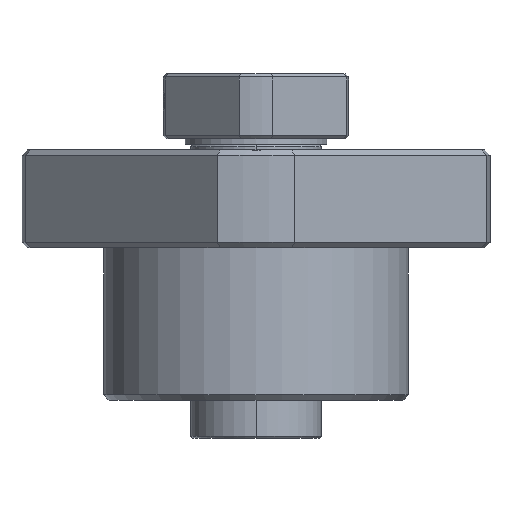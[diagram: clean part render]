
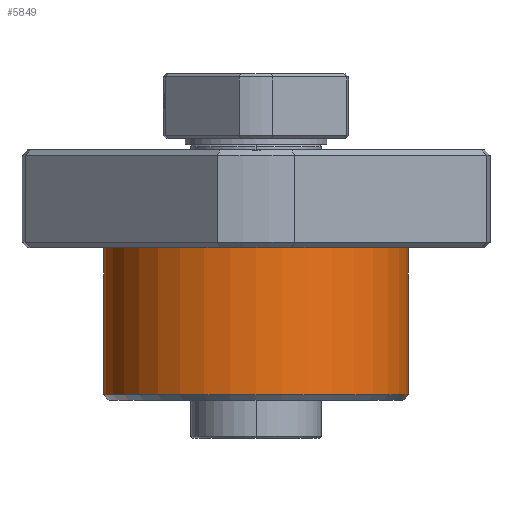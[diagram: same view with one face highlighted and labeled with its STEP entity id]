
A CAD part, left-side view. The second image highlights one B-rep face of the part: STEP entity #5849.
In plain terms, the highlighted cylindrical face has radius 14 mm (diameter 28 mm), a partial arc.
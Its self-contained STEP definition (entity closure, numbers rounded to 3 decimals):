
#1140 = FACE_OUTER_BOUND ( 'NONE', #4709, .T. ) ;
#1141 = AXIS2_PLACEMENT_3D ( 'NONE', #1779, #1780, #1781 ) ;
#1166 = CYLINDRICAL_SURFACE ( 'NONE', #1141, 14. ) ;
#1429 = CARTESIAN_POINT ( 'NONE',  ( 0., 0., -11. ) ) ;
#1430 = DIRECTION ( 'NONE',  ( 0., 0., 1. ) ) ;
#1431 = DIRECTION ( 'NONE',  ( 0., 1., 0. ) ) ;
#1779 = CARTESIAN_POINT ( 'NONE',  ( 0., 0., -11.5 ) ) ;
#1780 = DIRECTION ( 'NONE',  ( 0., 0., -1. ) ) ;
#1781 = DIRECTION ( 'NONE',  ( 0., -1., 0. ) ) ;
#2848 = ORIENTED_EDGE ( 'NONE', *, *, #6526, .F. ) ;
#2849 = ORIENTED_EDGE ( 'NONE', *, *, #6524, .T. ) ;
#2850 = ORIENTED_EDGE ( 'NONE', *, *, #6097, .T. ) ;
#2851 = ORIENTED_EDGE ( 'NONE', *, *, #6525, .T. ) ;
#3089 = CARTESIAN_POINT ( 'NONE',  ( 0., 0., 2.5 ) ) ;
#3093 = LINE ( 'NONE', #3094, #3932 ) ;
#3094 = CARTESIAN_POINT ( 'NONE',  ( 0., 14., -11.5 ) ) ;
#3095 = DIRECTION ( 'NONE',  ( 0., 0., -1. ) ) ;
#3096 = DIRECTION ( 'NONE',  ( 0., 0., -1. ) ) ;
#3097 = DIRECTION ( 'NONE',  ( 0., -1., 0. ) ) ;
#3099 = LINE ( 'NONE', #3100, #3933 ) ;
#3100 = CARTESIAN_POINT ( 'NONE',  ( 0., -14., -11.5 ) ) ;
#3101 = DIRECTION ( 'NONE',  ( 0., 0., -1. ) ) ;
#3357 = AXIS2_PLACEMENT_3D ( 'NONE', #1429, #1430, #1431 ) ;
#3925 = AXIS2_PLACEMENT_3D ( 'NONE', #3089, #3096, #3097 ) ;
#3932 = VECTOR ( 'NONE', #3095, 1000. ) ;
#3933 = VECTOR ( 'NONE', #3101, 1000. ) ;
#4152 = VERTEX_POINT ( 'NONE', #4916 ) ;
#4343 = CIRCLE ( 'NONE', #3357, 14. ) ;
#4554 = CIRCLE ( 'NONE', #3925, 14. ) ;
#4709 = EDGE_LOOP ( 'NONE', ( #2851, #2849, #2850, #2848 ) ) ;
#4916 = CARTESIAN_POINT ( 'NONE',  ( 0., -14., 2.5 ) ) ;
#5065 = CARTESIAN_POINT ( 'NONE',  ( 0., -14., -11. ) ) ;
#5070 = CARTESIAN_POINT ( 'NONE',  ( 0., 14., 2.5 ) ) ;
#5114 = CARTESIAN_POINT ( 'NONE',  ( 0., 14., -11. ) ) ;
#5264 = VERTEX_POINT ( 'NONE', #5065 ) ;
#5269 = VERTEX_POINT ( 'NONE', #5070 ) ;
#5313 = VERTEX_POINT ( 'NONE', #5114 ) ;
#5849 = ADVANCED_FACE ( 'NONE', ( #1140 ), #1166, .T. ) ;
#6097 = EDGE_CURVE ( 'NONE', #5313, #5264, #4343, .T. ) ;
#6524 = EDGE_CURVE ( 'NONE', #5269, #5313, #3093, .T. ) ;
#6525 = EDGE_CURVE ( 'NONE', #4152, #5269, #4554, .T. ) ;
#6526 = EDGE_CURVE ( 'NONE', #4152, #5264, #3099, .T. ) ;
